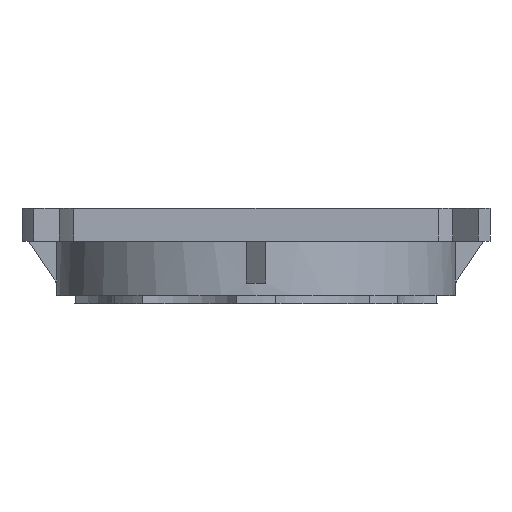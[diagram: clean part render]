
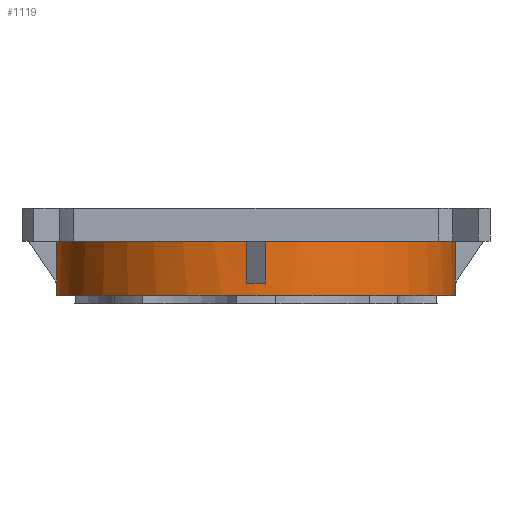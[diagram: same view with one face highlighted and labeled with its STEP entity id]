
A CAD part, front view. The second image highlights one B-rep face of the part: STEP entity #1119.
In plain terms, the highlighted cylindrical face has radius 60.5 mm (diameter 121 mm), a partial arc.
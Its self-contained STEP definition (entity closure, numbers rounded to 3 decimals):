
#1119=ADVANCED_FACE('',(#1241),#3119,.T.);
#1241=FACE_OUTER_BOUND('',#1377,.T.);
#1377=EDGE_LOOP('',(#1952,#1953,#1954,#1955,#1956,#1957,#1958,#1959,#1960,
#1961,#1962,#1963,#1964));
#1952=ORIENTED_EDGE('',*,*,#2309,.T.);
#1953=ORIENTED_EDGE('',*,*,#2090,.T.);
#1954=ORIENTED_EDGE('',*,*,#2079,.T.);
#1955=ORIENTED_EDGE('',*,*,#2080,.T.);
#1956=ORIENTED_EDGE('',*,*,#2081,.F.);
#1957=ORIENTED_EDGE('',*,*,#2082,.T.);
#1958=ORIENTED_EDGE('',*,*,#2083,.T.);
#1959=ORIENTED_EDGE('',*,*,#2084,.T.);
#1960=ORIENTED_EDGE('',*,*,#2085,.T.);
#1961=ORIENTED_EDGE('',*,*,#2086,.F.);
#1962=ORIENTED_EDGE('',*,*,#2087,.T.);
#1963=ORIENTED_EDGE('',*,*,#2088,.T.);
#1964=ORIENTED_EDGE('',*,*,#2308,.F.);
#2079=EDGE_CURVE('',#2859,#2860,#2363,.T.);
#2080=EDGE_CURVE('',#2860,#2839,#2653,.T.);
#2081=EDGE_CURVE('',#2838,#2839,#2364,.T.);
#2082=EDGE_CURVE('',#2838,#2861,#2654,.T.);
#2083=EDGE_CURVE('',#2861,#2862,#2365,.T.);
#2084=EDGE_CURVE('',#2862,#2863,#2366,.T.);
#2085=EDGE_CURVE('',#2863,#2835,#2655,.T.);
#2086=EDGE_CURVE('',#2834,#2835,#2367,.T.);
#2087=EDGE_CURVE('',#2834,#2864,#2656,.T.);
#2088=EDGE_CURVE('',#2864,#2865,#2368,.T.);
#2090=EDGE_CURVE('',#2853,#2859,#2657,.T.);
#2308=EDGE_CURVE('',#2986,#2865,#2787,.T.);
#2309=EDGE_CURVE('',#2986,#2853,#2458,.T.);
#2363=TRIMMED_CURVE($,#2501,(#4559),(#4560),.T.,.CARTESIAN.);
#2364=TRIMMED_CURVE($,#2502,(#4564),(#4565),.T.,.CARTESIAN.);
#2365=TRIMMED_CURVE($,#2503,(#4569),(#4570),.T.,.CARTESIAN.);
#2366=TRIMMED_CURVE($,#2504,(#4572),(#4573),.T.,.CARTESIAN.);
#2367=TRIMMED_CURVE($,#2505,(#4577),(#4578),.T.,.CARTESIAN.);
#2368=TRIMMED_CURVE($,#2506,(#4582),(#4583),.T.,.CARTESIAN.);
#2458=TRIMMED_CURVE($,#2596,(#5146),(#5147),.T.,.CARTESIAN.);
#2501=CIRCLE('',#3442,60.5);
#2502=CIRCLE('',#3443,60.5);
#2503=CIRCLE('',#3444,60.5);
#2504=CIRCLE('',#3445,60.5);
#2505=CIRCLE('',#3446,60.5);
#2506=CIRCLE('',#3447,60.5);
#2596=CIRCLE('',#3537,60.5);
#2653=B_SPLINE_CURVE_WITH_KNOTS('',1,(#4561,#4562),.UNSPECIFIED.,.F.,.F.,
(2,2),(0.,12.71),.UNSPECIFIED.);
#2654=B_SPLINE_CURVE_WITH_KNOTS('',1,(#4566,#4567),.UNSPECIFIED.,.F.,.F.,
(2,2),(0.,12.71),.UNSPECIFIED.);
#2655=B_SPLINE_CURVE_WITH_KNOTS('',1,(#4574,#4575),.UNSPECIFIED.,.F.,.F.,
(2,2),(0.,12.71),.UNSPECIFIED.);
#2656=B_SPLINE_CURVE_WITH_KNOTS('',1,(#4579,#4580),.UNSPECIFIED.,.F.,.F.,
(2,2),(0.,12.71),.UNSPECIFIED.);
#2657=B_SPLINE_CURVE_WITH_KNOTS('',1,(#4587,#4588),.UNSPECIFIED.,.F.,.F.,
(2,2),(1.71,5.5),.UNSPECIFIED.);
#2787=B_SPLINE_CURVE_WITH_KNOTS('',1,(#5143,#5144),.UNSPECIFIED.,.F.,.F.,
(2,2),(1.71,5.5),.UNSPECIFIED.);
#2834=VERTEX_POINT('',#4255);
#2835=VERTEX_POINT('',#4256);
#2838=VERTEX_POINT('',#4259);
#2839=VERTEX_POINT('',#4260);
#2853=VERTEX_POINT('',#4274);
#2859=VERTEX_POINT('',#4280);
#2860=VERTEX_POINT('',#4281);
#2861=VERTEX_POINT('',#4282);
#2862=VERTEX_POINT('',#4283);
#2863=VERTEX_POINT('',#4284);
#2864=VERTEX_POINT('',#4285);
#2865=VERTEX_POINT('',#4286);
#2986=VERTEX_POINT('',#4407);
#3119=CYLINDRICAL_SURFACE('',#3410,60.5);
#3410=AXIS2_PLACEMENT_3D('',#4208,#3668,$);
#3442=AXIS2_PLACEMENT_3D($,#4558,#3720,#3721);
#3443=AXIS2_PLACEMENT_3D($,#4563,#3722,#3723);
#3444=AXIS2_PLACEMENT_3D($,#4568,#3724,#3725);
#3445=AXIS2_PLACEMENT_3D($,#4571,#3726,#3727);
#3446=AXIS2_PLACEMENT_3D($,#4576,#3728,#3729);
#3447=AXIS2_PLACEMENT_3D($,#4581,#3730,#3731);
#3537=AXIS2_PLACEMENT_3D($,#5145,#3910,#3911);
#3668=DIRECTION('',(1.,0.,0.));
#3720=DIRECTION('',(-1.,0.,0.));
#3721=DIRECTION('',(0.,0.,-1.));
#3722=DIRECTION('',(1.,0.,0.));
#3723=DIRECTION('',(0.,-0.999,-0.05));
#3724=DIRECTION('',(-1.,0.,0.));
#3725=DIRECTION('',(0.,-0.999,-0.05));
#3726=DIRECTION('',(-1.,0.,0.));
#3727=DIRECTION('',(0.,-1.,0.));
#3728=DIRECTION('',(1.,0.,0.));
#3729=DIRECTION('',(0.,-0.05,0.999));
#3730=DIRECTION('',(-1.,0.,0.));
#3731=DIRECTION('',(0.,-0.05,0.999));
#3910=DIRECTION('',(1.,0.,0.));
#3911=DIRECTION('',(0.,0.,1.));
#4208=CARTESIAN_POINT('',(10.75,0.,0.));
#4255=CARTESIAN_POINT('',(19.,-3.,60.426));
#4256=CARTESIAN_POINT('',(19.,-60.426,3.));
#4259=CARTESIAN_POINT('',(19.,-60.426,-3.));
#4260=CARTESIAN_POINT('',(19.,-3.,-60.426));
#4274=CARTESIAN_POINT('',(2.5,0.,-60.5));
#4280=CARTESIAN_POINT('',(6.29,0.,-60.5));
#4281=CARTESIAN_POINT('',(6.29,-3.,-60.426));
#4282=CARTESIAN_POINT('',(6.29,-60.426,-3.));
#4283=CARTESIAN_POINT('',(6.29,-60.5,0.));
#4284=CARTESIAN_POINT('',(6.29,-60.426,3.));
#4285=CARTESIAN_POINT('',(6.29,-3.,60.426));
#4286=CARTESIAN_POINT('',(6.29,0.,60.5));
#4407=CARTESIAN_POINT('',(2.5,0.,60.5));
#4558=CARTESIAN_POINT('',(6.29,0.,0.));
#4559=CARTESIAN_POINT('',(6.29,0.,-60.5));
#4560=CARTESIAN_POINT('',(6.29,-3.,-60.426));
#4561=CARTESIAN_POINT('',(6.29,-3.,-60.426));
#4562=CARTESIAN_POINT('',(19.,-3.,-60.426));
#4563=CARTESIAN_POINT('',(19.,0.,0.));
#4564=CARTESIAN_POINT('',(19.,-60.426,-3.));
#4565=CARTESIAN_POINT('',(19.,-3.,-60.426));
#4566=CARTESIAN_POINT('',(19.,-60.426,-3.));
#4567=CARTESIAN_POINT('',(6.29,-60.426,-3.));
#4568=CARTESIAN_POINT('',(6.29,0.,0.));
#4569=CARTESIAN_POINT('',(6.29,-60.426,-3.));
#4570=CARTESIAN_POINT('',(6.29,-60.5,0.));
#4571=CARTESIAN_POINT('',(6.29,0.,0.));
#4572=CARTESIAN_POINT('',(6.29,-60.5,0.));
#4573=CARTESIAN_POINT('',(6.29,-60.426,3.));
#4574=CARTESIAN_POINT('',(6.29,-60.426,3.));
#4575=CARTESIAN_POINT('',(19.,-60.426,3.));
#4576=CARTESIAN_POINT('',(19.,0.,0.));
#4577=CARTESIAN_POINT('',(19.,-3.,60.426));
#4578=CARTESIAN_POINT('',(19.,-60.426,3.));
#4579=CARTESIAN_POINT('',(19.,-3.,60.426));
#4580=CARTESIAN_POINT('',(6.29,-3.,60.426));
#4581=CARTESIAN_POINT('',(6.29,0.,0.));
#4582=CARTESIAN_POINT('',(6.29,-3.,60.426));
#4583=CARTESIAN_POINT('',(6.29,0.,60.5));
#4587=CARTESIAN_POINT('',(2.5,0.,-60.5));
#4588=CARTESIAN_POINT('',(6.29,0.,-60.5));
#5143=CARTESIAN_POINT('',(2.5,0.,60.5));
#5144=CARTESIAN_POINT('',(6.29,0.,60.5));
#5145=CARTESIAN_POINT('',(2.5,0.,0.));
#5146=CARTESIAN_POINT('',(2.5,0.,60.5));
#5147=CARTESIAN_POINT('',(2.5,0.,-60.5));
